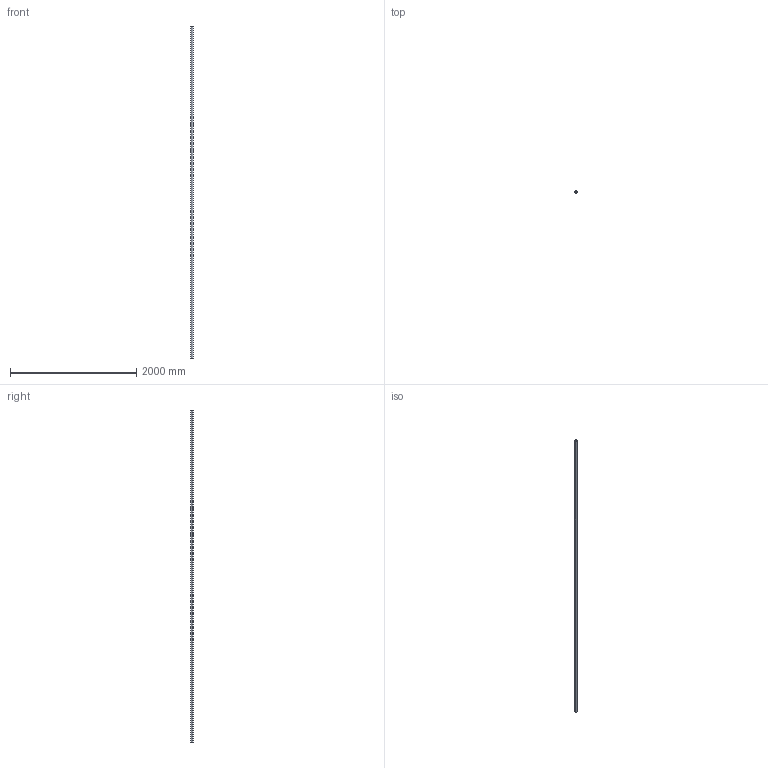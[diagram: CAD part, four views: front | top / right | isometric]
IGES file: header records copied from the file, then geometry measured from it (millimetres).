
Start section: SolidWorks IGES file using analytic representation for surfaces
Global section: file name: C:\Users\IanO\Desktop\L1771_v2\L1771.40_v2\L1771.40_v2_20230705_IGES\L1771.40-5250.igs; native system: SolidWorks 2019; preprocessor: SolidWorks 2019; author: IanO; date: 230705.163026; units: millimetre
Bounding box: 40 x 40 x 5250 mm (x, y, z)
Surface area: 1122830.3 mm2 (no closed solid volume)
Topology: 0 solids, 0 shells, 6 faces, 272 edges, 272 vertices
Faces by surface type: revolution 4, bspline 2
